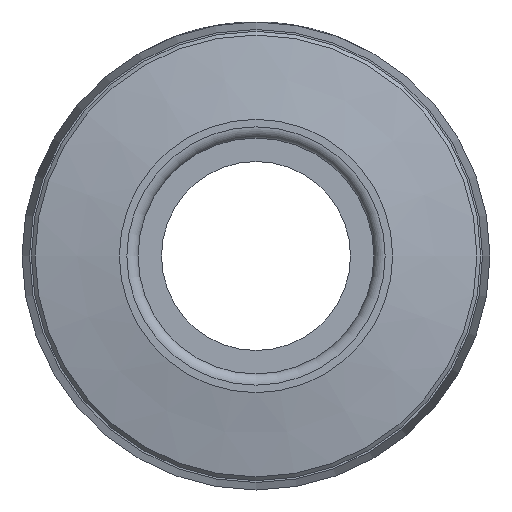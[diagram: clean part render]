
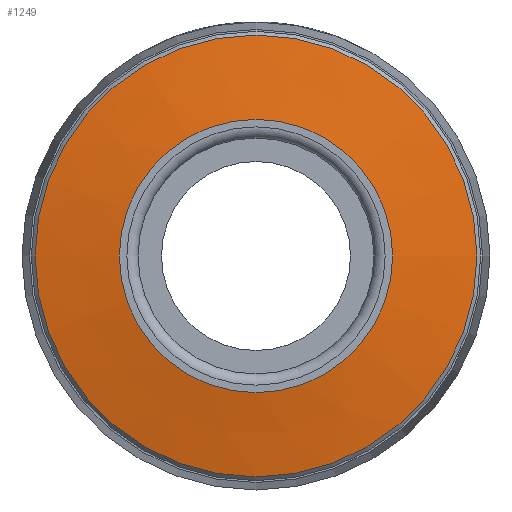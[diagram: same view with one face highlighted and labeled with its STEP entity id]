
A CAD part, left-side view. The second image highlights one B-rep face of the part: STEP entity #1249.
In plain terms, the highlighted conical face has half-angle 79.919 degrees and reference radius 4.775 mm.
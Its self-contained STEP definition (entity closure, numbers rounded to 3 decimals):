
#1215=CARTESIAN_POINT('',(0.0,3.65,0.0));
#1216=VERTEX_POINT('',#1215);
#1217=CARTESIAN_POINT('',(0.0,0.0,0.0));
#1218=DIRECTION('',(1.0,0.0,0.0));
#1219=DIRECTION('',(0.0,1.0,0.0));
#1220=AXIS2_PLACEMENT_3D('',#1217,#1218,#1219);
#1221=CIRCLE('',#1220,3.65);
#1222=EDGE_CURVE('',#1216,#1216,#1221,.T.);
#1230=CARTESIAN_POINT('',(0.2,0.,0.0));
#1231=DIRECTION('',(1.0,0.,0.0));
#1232=DIRECTION('',(0.0,1.0,0.0));
#1233=AXIS2_PLACEMENT_3D('',#1230,#1231,#1232);
#1234=CONICAL_SURFACE('',#1233,4.775,79.919);
#1235=CARTESIAN_POINT('',(0.4,5.9,0.0));
#1236=VERTEX_POINT('',#1235);
#1237=CARTESIAN_POINT('',(0.4,0.,0.0));
#1238=DIRECTION('',(1.0,0.0,0.0));
#1239=DIRECTION('',(0.0,1.0,0.0));
#1240=AXIS2_PLACEMENT_3D('',#1237,#1238,#1239);
#1241=CIRCLE('',#1240,5.9);
#1242=EDGE_CURVE('',#1236,#1236,#1241,.T.);
#1243=ORIENTED_EDGE('',*,*,#1242,.F.);
#1244=EDGE_LOOP('',(#1243));
#1245=FACE_OUTER_BOUND('',#1244,.T.);
#1246=ORIENTED_EDGE('',*,*,#1222,.T.);
#1247=EDGE_LOOP('',(#1246));
#1248=FACE_BOUND('',#1247,.T.);
#1249=ADVANCED_FACE('',(#1245,#1248),#1234,.T.);
